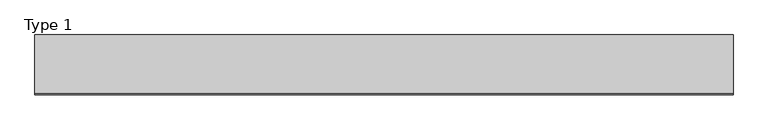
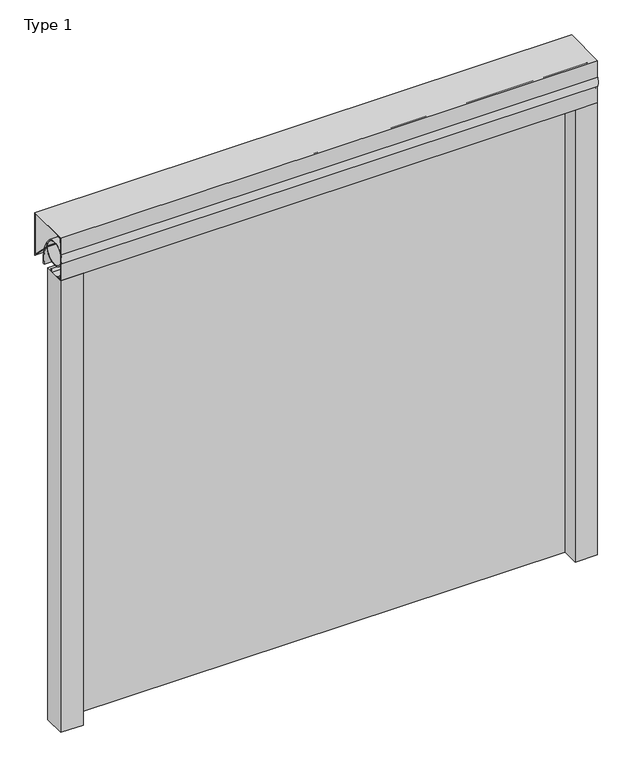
"""IFC4 building model written with IfcOpenShell, lengths in millimetres: proxy geometry, וילון אש בחלק מהקיר : Type 1."""

import ifcopenshell
import ifcopenshell.guid

model = None  # the IFC model being written
_history = None  # IfcOwnerHistory: only IFC2X3 demands one
_inside = {}  # id of a spatial element -> (the spatial element, [elements in it])
_under = {}  # id of a project, library or spatial element -> (it, [spatial elements below it])
_declared = {}  # id of a project -> (the project, [libraries it declares])
_typed = {}  # id of a type object -> (the type object, [elements of that type])
_made_of = {}  # id of a material, layer set ... -> (it, [elements and type objects made of it])


def new_model(schema):
    """Start an empty IFC model of exactly this schema.

    Asked for "IFC4X3", IfcOpenShell would pick the latest addendum, in which some entities
    have other attributes; the version numbers below select the first issue.
    IFC2X3 requires an IfcOwnerHistory on every rooted entity: one is made here for all.
    """
    global model, _history
    if schema == "IFC4X3":
        model = ifcopenshell.file(schema_version=(4, 3, 0, 0))
    else:
        model = ifcopenshell.file(schema=schema)
    _inside.clear()
    _under.clear()
    _declared.clear()
    _typed.clear()
    _made_of.clear()
    _history = None
    if model.schema == "IFC2X3":
        org = make("IfcOrganization", Name="unknown")
        user = make(
            "IfcPersonAndOrganization",
            ThePerson=make("IfcPerson", FamilyName="unknown"),
            TheOrganization=org,
        )
        app = make(
            "IfcApplication",
            ApplicationDeveloper=org,
            Version="unknown",
            ApplicationFullName="unknown",
            ApplicationIdentifier="unknown",
        )
        _history = make(
            "IfcOwnerHistory",
            OwningUser=user,
            OwningApplication=app,
            ChangeAction="ADDED",
            CreationDate=0,
        )
    return model


def make(cls, **values):
    """One entity of the class cls with the attributes given. An attribute that is None is left unset."""
    return model.create_entity(
        cls, **{name: value for name, value in values.items() if value is not None}
    )


def rooted(cls, **values):
    """An entity with a GlobalId (a new one), such as an element, a storey or a relation."""
    return make(cls, GlobalId=ifcopenshell.guid.new(), OwnerHistory=_history, **values)


def si_unit(unit_type, name, prefix=None):
    """IfcSIUnit, for example si_unit("LENGTHUNIT", "METRE", prefix="MILLI")."""
    return make("IfcSIUnit", UnitType=unit_type, Prefix=prefix, Name=name)


def assignment(units):
    """IfcUnitAssignment: the units of a project."""
    return None if units is None else make("IfcUnitAssignment", Units=units)


def point(xyz):
    """IfcCartesianPoint."""
    return None if xyz is None else make("IfcCartesianPoint", Coordinates=xyz)


def direction(xyz):
    """IfcDirection."""
    return None if xyz is None else make("IfcDirection", DirectionRatios=xyz)


def frame(location, z_axis=None, x_axis=None):
    """IfcAxis2Placement3D, a coordinate frame: its origin and axes. An axis left out is left unset."""
    return make(
        "IfcAxis2Placement3D",
        Location=point(location),
        Axis=direction(z_axis),
        RefDirection=direction(x_axis),
    )


def frame_2d(location, x_axis=None):
    """IfcAxis2Placement2D, a coordinate frame in the plane: its origin and x axis."""
    return make(
        "IfcAxis2Placement2D", Location=point(location), RefDirection=direction(x_axis)
    )


def origin():
    """The frame at (0, 0, 0) with its axes left unset."""
    return frame((0.0, 0.0, 0.0))


def origin_with_axes():
    """The frame at (0, 0, 0) with the z axis (0, 0, 1) and the x axis (1, 0, 0) written out."""
    return frame((0.0, 0.0, 0.0), z_axis=(0.0, 0.0, 1.0), x_axis=(1.0, 0.0, 0.0))


def place(relative_to, where):
    """IfcLocalPlacement: puts the frame where relative to a parent placement (None: the world)."""
    return make(
        "IfcLocalPlacement", PlacementRelTo=relative_to, RelativePlacement=where
    )


def context(
    kind, dimensions, precision=None, world=None, true_north=None, identifier=None
):
    """IfcGeometricRepresentationContext, for example the 3D "Model" context."""
    return make(
        "IfcGeometricRepresentationContext",
        ContextIdentifier=identifier,
        ContextType=kind,
        CoordinateSpaceDimension=dimensions,
        Precision=precision,
        WorldCoordinateSystem=world,
        TrueNorth=true_north,
    )


def project(units=None, contexts=None):
    """IfcProject with its units and contexts."""
    return rooted(
        "IfcProject",
        Name="project",
        RepresentationContexts=contexts,
        UnitsInContext=assignment(units),
    )


def spatial(cls, under=None, at=None, **own):
    """A site, building, storey or space (cls), placed at a placement, below another one or the project."""
    s = rooted(cls, ObjectPlacement=at, **own)
    if under is not None:
        _under.setdefault(under.id(), (under, []))[1].append(s)
    return s


def polyline(points):
    """IfcPolyline through the points."""
    return make("IfcPolyline", Points=[point(p) for p in points])


def circle_curve(where, radius):
    """IfcCircle in the frame where."""
    return make("IfcCircle", Position=where, Radius=radius)


def trimmed(basis, trim1, trim2, sense, master):
    """IfcTrimmedCurve: the piece of a basis curve between two trims."""
    return make(
        "IfcTrimmedCurve",
        BasisCurve=basis,
        Trim1=trim1,
        Trim2=trim2,
        SenseAgreement=sense,
        MasterRepresentation=master,
    )


def segment(curve, same_sense, transition):
    """IfcCompositeCurveSegment."""
    return make(
        "IfcCompositeCurveSegment",
        Transition=transition,
        SameSense=same_sense,
        ParentCurve=curve,
    )


def composite_curve(segments, self_intersect=None):
    """IfcCompositeCurve: segments joined end to end."""
    return make("IfcCompositeCurve", Segments=segments, SelfIntersect=self_intersect)


def outline(outer, holes=None, kind="AREA"):
    """IfcArbitraryClosedProfileDef: a profile drawn as a closed curve; with holes, ...WithVoids."""
    if holes is None:
        return make("IfcArbitraryClosedProfileDef", ProfileType=kind, OuterCurve=outer)
    return make(
        "IfcArbitraryProfileDefWithVoids",
        ProfileType=kind,
        OuterCurve=outer,
        InnerCurves=holes,
    )


def extrude(swept, where, along, depth):
    """IfcExtrudedAreaSolid: the profile swept, set in the frame where, extruded along a direction by depth."""
    return make(
        "IfcExtrudedAreaSolid",
        SweptArea=swept,
        Position=where,
        ExtrudedDirection=direction(along),
        Depth=depth,
    )


def shape(context_of_items, identifier, shape_type, items):
    """IfcShapeRepresentation: the items that make up one representation, for example the "Body"."""
    return make(
        "IfcShapeRepresentation",
        ContextOfItems=context_of_items,
        RepresentationIdentifier=identifier,
        RepresentationType=shape_type,
        Items=items,
    )


def source(mapping_origin, context_of_items, identifier, shape_type, items):
    """IfcRepresentationMap: a shape defined once, which mapped items show again and again."""
    return make(
        "IfcRepresentationMap",
        MappingOrigin=mapping_origin,
        MappedRepresentation=shape(context_of_items, identifier, shape_type, items),
    )


def transform(
    local_origin,
    x_axis=None,
    y_axis=None,
    z_axis=None,
    scale=None,
    scale2=None,
    scale3=None,
    uniform=True,
):
    """IfcCartesianTransformationOperator3D, or its non-uniform kind. x_axis, y_axis, z_axis: its Axis1, 2, 3."""
    if uniform:
        return make(
            "IfcCartesianTransformationOperator3D",
            Axis1=direction(x_axis),
            Axis2=direction(y_axis),
            LocalOrigin=point(local_origin),
            Scale=scale,
            Axis3=direction(z_axis),
        )
    return make(
        "IfcCartesianTransformationOperator3DnonUniform",
        Axis1=direction(x_axis),
        Axis2=direction(y_axis),
        LocalOrigin=point(local_origin),
        Scale=scale,
        Axis3=direction(z_axis),
        Scale2=scale2,
        Scale3=scale3,
    )


def mapped(mapping_source, mapping_target):
    """IfcMappedItem: shows the shape of a source again, moved by a transform."""
    return make(
        "IfcMappedItem", MappingSource=mapping_source, MappingTarget=mapping_target
    )


def made_of(thing, what):
    """Note that an element or type object is made of a material, layer set ...; save() writes the relation."""
    if what is not None:
        _made_of.setdefault(what.id(), (what, []))[1].append(thing)
    return thing


def element(
    cls,
    number,
    at=None,
    inside=None,
    cuts=None,
    type_object=None,
    material=None,
    context=None,
    identifier="Body",
    shape_type=None,
    held_by="IfcProductDefinitionShape",
    body=None,
    shapes=None,
    **own,
):
    """One element of the class cls, such as IfcWall. Its Tag is "e" and its number.

    at: its placement. inside: the storey or other place that contains it. cuts: it is an
    opening in that element (IfcRelVoidsElement). A single representation is given by context,
    identifier, shape_type and body (its items); several are given by shapes. held_by: the class
    of the entity that holds the representations. save() writes the other relations.
    """
    e = rooted(cls, Tag="e%d" % number, ObjectPlacement=at, **own)
    if body is not None:
        shapes = [shape(context, identifier, shape_type, body)]
    if shapes is not None:
        e.Representation = make(held_by, Representations=shapes)
    if inside is not None:
        _inside.setdefault(inside.id(), (inside, []))[1].append(e)
    if cuts is not None:
        rooted(
            "IfcRelVoidsElement", RelatingBuildingElement=cuts, RelatedOpeningElement=e
        )
    if type_object is not None:
        _typed.setdefault(type_object.id(), (type_object, []))[1].append(e)
    return made_of(e, material)


def aggregate(whole, parts):
    """IfcRelAggregates: a whole, such as a stair, and the parts it consists of."""
    return rooted("IfcRelAggregates", RelatingObject=whole, RelatedObjects=parts)


def save(model, path):
    """Write the relations noted so far, then the file.

    IfcRelAggregates (storeys below a building ...), IfcRelContainedInSpatialStructure (elements
    in a storey), IfcRelDefinesByType, IfcRelAssociatesMaterial and IfcRelDeclares: one each for
    every whole, place, type object, material and project.
    """
    for whole, parts in _under.values():
        aggregate(whole, parts)
    for where, things in _inside.values():
        rooted(
            "IfcRelContainedInSpatialStructure",
            RelatedElements=things,
            RelatingStructure=where,
        )
    for kind, things in _typed.values():
        rooted("IfcRelDefinesByType", RelatedObjects=things, RelatingType=kind)
    for what, things in _made_of.values():
        rooted("IfcRelAssociatesMaterial", RelatedObjects=things, RelatingMaterial=what)
    for by, libraries in _declared.values():
        rooted("IfcRelDeclares", RelatingContext=by, RelatedDefinitions=libraries)
    model.write(path)


def type_1_e4194663(model_context):
    return source(origin(), model_context, "Body", "SweptSolid", [
        extrude(outline(polyline([(-972.7036137, 50.0), (-972.7036137, -50.0), (-1072.7036137, -50.0), (-1072.7036137, 50.0), (-972.7036137, 50.0)])), origin_with_axes(), (0.0, 0.0, 1.0), 2132.0),
        extrude(outline(polyline([(1222.7036137, 50.0), (1322.7036137, 50.0), (1322.7036137, -50.0), (1222.7036137, -50.0), (1222.7036137, 50.0)])), origin_with_axes(), (0.0, 0.0, 1.0), 2132.0),
        extrude(outline(polyline([(1222.7036137, 34.0192575), (1222.7036137, 28.9624948), (-972.7036137, 28.9624948), (-972.7036137, 34.0192575), (1222.7036137, 34.0192575)])), origin_with_axes(), (0.0, 0.0, 1.0), 2132.0),
        extrude(outline(polyline([(150.0, 2332.0), (150.0, 2132.0), (39.3933983, 2242.6066017), (40.8076118, 2244.0208153), (148.0, 2136.8284271), (148.0, 2330.0), (-48.0, 2330.0), (-48.0, 2134.0), (14.1715729, 2134.0), (24.1923882, 2144.0208153), (25.6066017, 2142.6066017), (15.0, 2132.0), (-50.0, 2132.0), (-50.0, 2332.0), (150.0, 2332.0)])), frame((-1072.7036137, 0.0, 0.0), z_axis=(1.0, 0.0, 0.0), x_axis=(0.0, 1.0, 0.0)), (0.0, 0.0, 1.0), 2395.4072275),
        extrude(outline(polyline([(-47.2804009, 2309.3307098), (-47.2804009, 2329.3307098), (-27.2804009, 2329.3307098), (-27.2804009, 2327.3307098), (-45.2804009, 2327.3307098), (-45.2804009, 2309.3307098), (-47.2804009, 2309.3307098)])), frame((-1072.7036137, 0.0, 0.0), z_axis=(1.0, 0.0, 0.0), x_axis=(0.0, 1.0, 0.0)), (0.0, 0.0, 1.0), 2395.4072275),
        extrude(outline(polyline([(-47.2804009, 2154.6692902), (-45.2804009, 2154.6692902), (-45.2804009, 2136.6692902), (-27.2804009, 2136.6692902), (-27.2804009, 2134.6692902), (-47.2804009, 2134.6692902), (-47.2804009, 2154.6692902)])), frame((-1072.7036137, 0.0, 0.0), z_axis=(1.0, 0.0, 0.0), x_axis=(0.0, 1.0, 0.0)), (0.0, 0.0, 1.0), 2395.4072275),
        extrude(outline(composite_curve([segment(trimmed(circle_curve(frame_2d((0.0, 2232.0)), 55.0), [point((53.3458963, 2245.3871335))], [point((39.9794591, 2269.7709259))], False, "CARTESIAN"), True, "CONTINUOUS"), segment(trimmed(circle_curve(frame_2d((-78.0779231, 2156.108421)), 163.8801713), [point((39.9794591, 2269.7709259))], [point((84.0192532, 2132.0))], False, "CARTESIAN"), True, "CONTINUOUS"), segment(polyline([(84.0192532, 2132.0), (78.9624948, 2132.0)]), True, "CONTINUOUS"), segment(trimmed(circle_curve(frame_2d((-78.0779231, 2156.108421)), 158.8801713), [point((78.9624948, 2132.0))], [point((53.3458963, 2245.3871335))], True, "CARTESIAN"), True, "CONTINUOUS")], self_intersect=False), holes=[composite_curve([segment(trimmed(circle_curve(frame_2d((0.0, 2232.0)), 50.0), [point((-50.0, 2232.0))], [point((50.0, 2232.0))], True, "CARTESIAN"), True, "CONTINUOUS"), segment(trimmed(circle_curve(frame_2d((0.0, 2232.0)), 50.0), [point((50.0, 2232.0))], [point((-50.0, 2232.0))], True, "CARTESIAN"), True, "CONTINUOUS")], self_intersect=False)]), frame((-1072.7036137, 0.0, 0.0), z_axis=(1.0, 0.0, 0.0), x_axis=(0.0, 1.0, 0.0)), (0.0, 0.0, 1.0), 2395.4072275),
    ])


if __name__ == "__main__":
    model = new_model("IFC4")
    model_context = context("Model", 3, world=origin())
    ifc_project = project(units=[si_unit("LENGTHUNIT", "METRE", prefix="MILLI")], contexts=[model_context])
    site = spatial("IfcSite", under=ifc_project)
    building = spatial("IfcBuilding", under=site)
    placement = place(None, origin())
    type_1_shape = type_1_e4194663(model_context)
    element("IfcBuildingElementProxy", 1, Name="וילון אש בחלק מהקיר : Type 1", ObjectType="וילון אש בחלק מהקיר : Type 1", at=placement, inside=building, context=model_context, shape_type="MappedRepresentation", body=[
        mapped(type_1_shape, transform((0.0, 0.0, 0.0), x_axis=(1.0, 0.0, 0.0), y_axis=(0.0, 1.0, 0.0), z_axis=(0.0, 0.0, 1.0))),
    ])
    save(model, "model.ifc")
